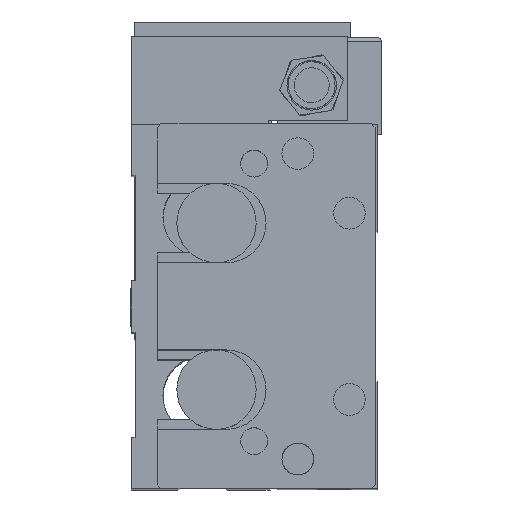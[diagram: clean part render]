
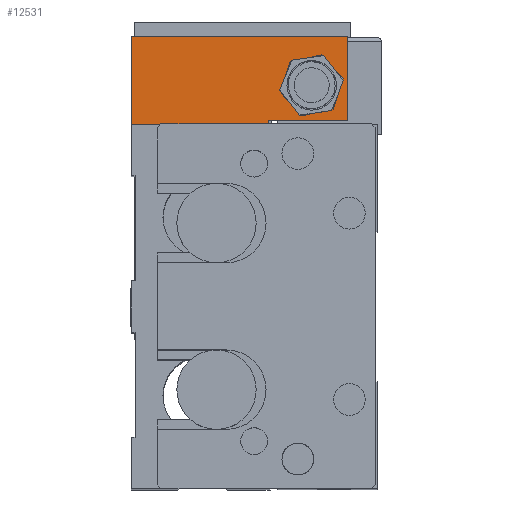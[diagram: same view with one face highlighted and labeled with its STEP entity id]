
A CAD part, top view. The second image highlights one B-rep face of the part: STEP entity #12531.
In plain terms, the highlighted planar face has unit normal (0, 0, 1) as drawn and (0, 0, -1) by its records, which use the part's own axes.
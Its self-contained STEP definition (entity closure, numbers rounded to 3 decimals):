
#632 = CARTESIAN_POINT ( 'NONE',  ( 6., 45.5, 0. ) ) ;
#633 = CARTESIAN_POINT ( 'NONE',  ( 18.5, 45.5, 0. ) ) ;
#639 = CARTESIAN_POINT ( 'NONE',  ( 3.5, 54.5, 0. ) ) ;
#744 = CARTESIAN_POINT ( 'NONE',  ( 24.5, 54.5, 0. ) ) ;
#752 = CIRCLE ( 'NONE', #791, 6.25 ) ;
#791 = AXIS2_PLACEMENT_3D ( 'NONE', #797, #861, #860 ) ;
#797 = CARTESIAN_POINT ( 'NONE',  ( 12.25, 45.5, 0. ) ) ;
#860 = DIRECTION ( 'NONE',  ( 1., 0., 0. ) ) ;
#861 = DIRECTION ( 'NONE',  ( 0., 0., 1. ) ) ;
#12380 = EDGE_CURVE ( 'NONE', #13266, #13258, #33121, .T. ) ;
#12407 = EDGE_CURVE ( 'NONE', #12439, #12462, #33248, .T. ) ;
#12413 = EDGE_CURVE ( 'NONE', #12434, #12439, #33287, .T. ) ;
#12434 = VERTEX_POINT ( 'NONE', #33269 ) ;
#12439 = VERTEX_POINT ( 'NONE', #33325 ) ;
#12462 = VERTEX_POINT ( 'NONE', #33338 ) ;
#12466 = EDGE_CURVE ( 'NONE', #12462, #13266, #33399, .T. ) ;
#12517 = VERTEX_POINT ( 'NONE', #33469 ) ;
#12529 = ORIENTED_EDGE ( 'NONE', *, *, #12380, .F. ) ;
#12531 = ADVANCED_FACE ( 'NONE', ( #33482, #33479 ), #32368, .T. ) ;
#12532 = ORIENTED_EDGE ( 'NONE', *, *, #12563, .F. ) ;
#12563 = EDGE_CURVE ( 'NONE', #13258, #12517, #33590, .T. ) ;
#12569 = ORIENTED_EDGE ( 'NONE', *, *, #13299, .T. ) ;
#12577 = ORIENTED_EDGE ( 'NONE', *, *, #12580, .F. ) ;
#12580 = EDGE_CURVE ( 'NONE', #12517, #12434, #33629, .T. ) ;
#12581 = EDGE_LOOP ( 'NONE', ( #12577, #12532, #12529, #12602, #12610, #12615 ) ) ;
#12602 = ORIENTED_EDGE ( 'NONE', *, *, #12466, .F. ) ;
#12610 = ORIENTED_EDGE ( 'NONE', *, *, #12407, .F. ) ;
#12614 = EDGE_LOOP ( 'NONE', ( #12616, #12569 ) ) ;
#12615 = ORIENTED_EDGE ( 'NONE', *, *, #12413, .F. ) ;
#12616 = ORIENTED_EDGE ( 'NONE', *, *, #12619, .T. ) ;
#12619 = EDGE_CURVE ( 'NONE', #13241, #13232, #33668, .T. ) ;
#13232 = VERTEX_POINT ( 'NONE', #632 ) ;
#13241 = VERTEX_POINT ( 'NONE', #633 ) ;
#13258 = VERTEX_POINT ( 'NONE', #639 ) ;
#13266 = VERTEX_POINT ( 'NONE', #744 ) ;
#13299 = EDGE_CURVE ( 'NONE', #13232, #13241, #752, .T. ) ;
#31743 = DIRECTION ( 'NONE',  ( -1., 0., 0. ) ) ;
#32365 = DIRECTION ( 'NONE',  ( 0., 0., -1. ) ) ;
#32366 = CARTESIAN_POINT ( 'NONE',  ( 0., 54.5, 0. ) ) ;
#32367 = AXIS2_PLACEMENT_3D ( 'NONE', #32366, #32365, #31743 ) ;
#32368 = PLANE ( 'NONE',  #32367 ) ;
#33121 = LINE ( 'NONE', #33173, #33172 ) ;
#33171 = DIRECTION ( 'NONE',  ( -1., 0., 0. ) ) ;
#33172 = VECTOR ( 'NONE', #33171, 1000. ) ;
#33173 = CARTESIAN_POINT ( 'NONE',  ( 0., 54.5, 0. ) ) ;
#33241 = DIRECTION ( 'NONE',  ( 1., 0., 0. ) ) ;
#33242 = VECTOR ( 'NONE', #33241, 1000. ) ;
#33247 = CARTESIAN_POINT ( 'NONE',  ( 0., 0., 0. ) ) ;
#33248 = LINE ( 'NONE', #33247, #33242 ) ;
#33269 = CARTESIAN_POINT ( 'NONE',  ( 0., 34.5, 0. ) ) ;
#33284 = DIRECTION ( 'NONE',  ( 0., -1., 0. ) ) ;
#33285 = VECTOR ( 'NONE', #33284, 1000. ) ;
#33286 = CARTESIAN_POINT ( 'NONE',  ( 0., 0., 0. ) ) ;
#33287 = LINE ( 'NONE', #33286, #33285 ) ;
#33325 = CARTESIAN_POINT ( 'NONE',  ( 0., 0., 0. ) ) ;
#33338 = CARTESIAN_POINT ( 'NONE',  ( 24.5, 0., 0. ) ) ;
#33396 = DIRECTION ( 'NONE',  ( 0., 1., 0. ) ) ;
#33397 = VECTOR ( 'NONE', #33396, 1000. ) ;
#33398 = CARTESIAN_POINT ( 'NONE',  ( 24.5, 0., 0. ) ) ;
#33399 = LINE ( 'NONE', #33398, #33397 ) ;
#33469 = CARTESIAN_POINT ( 'NONE',  ( 3.5, 34.5, 0. ) ) ;
#33479 = FACE_BOUND ( 'NONE', #12614, .T. ) ;
#33482 = FACE_OUTER_BOUND ( 'NONE', #12581, .T. ) ;
#33589 = CARTESIAN_POINT ( 'NONE',  ( 3.5, 54.5, 0. ) ) ;
#33590 = LINE ( 'NONE', #33589, #33641 ) ;
#33612 = AXIS2_PLACEMENT_3D ( 'NONE', #33652, #33692, #33691 ) ;
#33628 = CARTESIAN_POINT ( 'NONE',  ( 3.5, 34.5, 0. ) ) ;
#33629 = LINE ( 'NONE', #33628, #33632 ) ;
#33632 = VECTOR ( 'NONE', #33643, 1000. ) ;
#33639 = DIRECTION ( 'NONE',  ( 0., -1., 0. ) ) ;
#33641 = VECTOR ( 'NONE', #33639, 1000. ) ;
#33643 = DIRECTION ( 'NONE',  ( -1., 0., 0. ) ) ;
#33652 = CARTESIAN_POINT ( 'NONE',  ( 12.25, 45.5, 0. ) ) ;
#33668 = CIRCLE ( 'NONE', #33612, 6.25 ) ;
#33691 = DIRECTION ( 'NONE',  ( 1., 0., 0. ) ) ;
#33692 = DIRECTION ( 'NONE',  ( 0., 0., 1. ) ) ;
